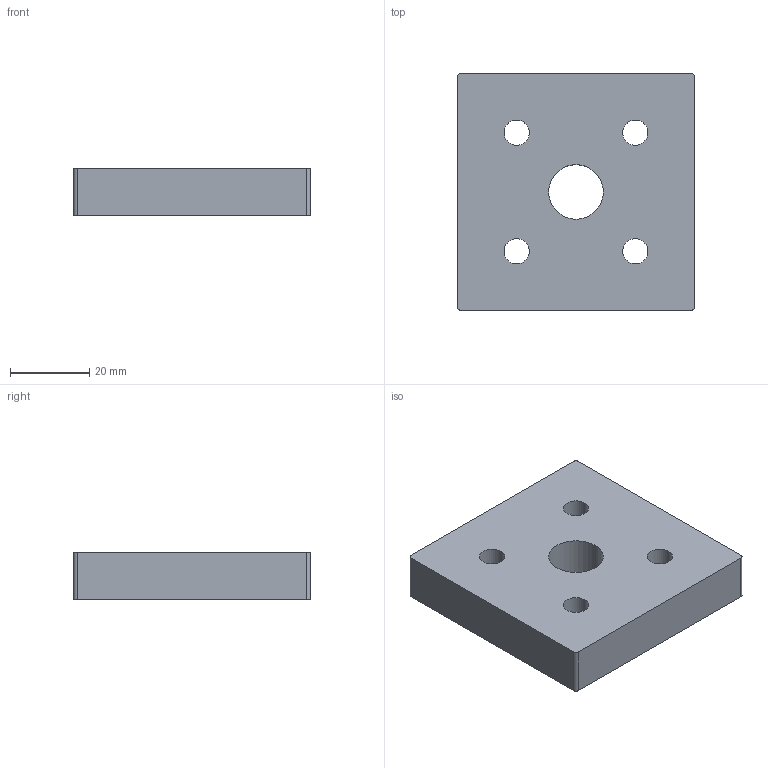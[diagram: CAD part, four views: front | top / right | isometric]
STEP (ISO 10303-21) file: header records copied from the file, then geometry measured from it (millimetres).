
FILE_DESCRIPTION (( 'STEP AP203' ), '1' );
FILE_NAME ('DFB6060.STEP', '2018-11-23T03:17:11', ( '' ), ( '' ), 'SwSTEP 2.0', 'SolidWorks 2012', '' );
FILE_SCHEMA (( 'CONFIG_CONTROL_DESIGN' ));
Length unit declared in the file: millimetre
Products named in the file (1): DFB6060
Bounding box: 60 x 60 x 12 mm (x, y, z)
Volume: 38232.3 mm3; surface area: 11356.3 mm2
Topology: 1 solids, 1 shells, 32 faces, 78 edges, 52 vertices
Faces by surface type: cylinder 22, plane 10
Entity records: 1063 total; most frequent: DIRECTION 188, CARTESIAN_POINT 163, ORIENTED_EDGE 156, EDGE_CURVE 78, AXIS2_PLACEMENT_3D 77, VERTEX_POINT 52, EDGE_LOOP 46, CIRCLE 44
